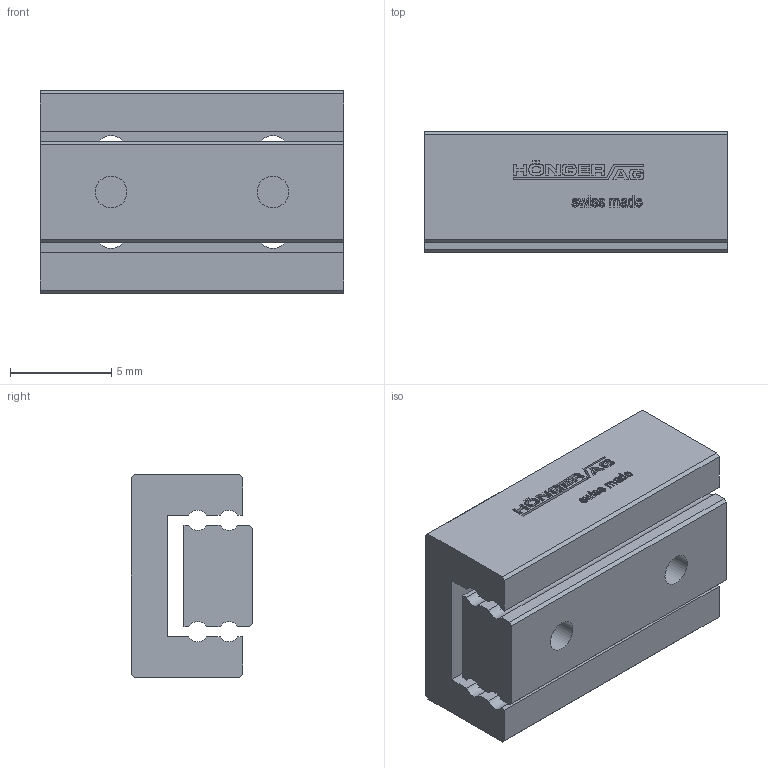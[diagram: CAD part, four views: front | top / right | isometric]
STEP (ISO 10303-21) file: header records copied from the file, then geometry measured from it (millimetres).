
FILE_DESCRIPTION(/* description */ ('STEP AP214'),/* implementation_level */ '2;1');
FILE_NAME(/* name */ 'MSK 5-15.10(0)',/* time_stamp */ '2025-04-16T16:47:33+02:00',/* author */ ('License CC BY-ND 4.0'),/* organization */ ('CADENAS'),/* preprocessor_version */ 'ST-DEVELOPER v19.3',/* originating_system */ 'PARTsolutions',/* authorisation */ ' ');
FILE_SCHEMA (('AUTOMOTIVE_DESIGN {1 0 10303 214 3 1 1}'));
Length unit declared in the file: millimetre
Products named in the file (3): MSK 5-15.10(0); MSK 5-15.10_1; MSK 5-15.10_2
Assembly tree (2 placements, depth 2):
  MSK 5-15.10(0)
    MSK 5-15.10_1
    MSK 5-15.10_2
Bounding box: 15 x 6 x 10 mm (x, y, z)
Volume: 699.4 mm3; surface area: 995.3 mm2
Topology: 2 solids, 2 shells, 513 faces, 1442 edges, 960 vertices
Faces by surface type: cylinder 306, plane 203, cone 4
Full cylindrical faces by diameter (mm): 1.567 x6
Entity records: 16849 total; most frequent: DIRECTION 3080, CARTESIAN_POINT 2908, ORIENTED_EDGE 2864, EDGE_CURVE 1432, AXIS2_PLACEMENT_3D 1132, VERTEX_POINT 960, LINE 816, VECTOR 816
